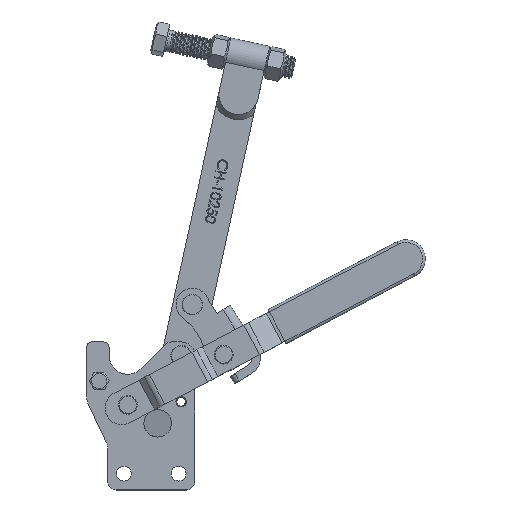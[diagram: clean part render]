
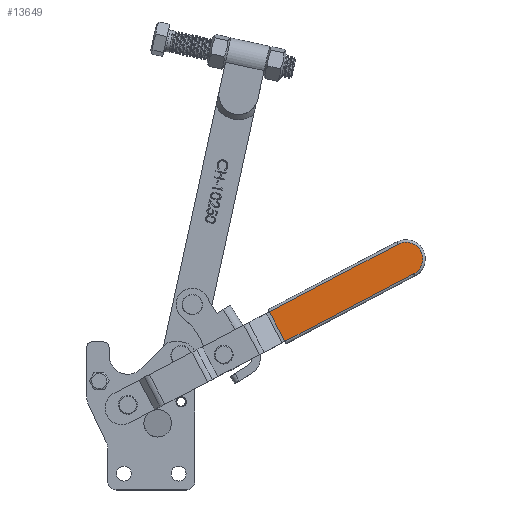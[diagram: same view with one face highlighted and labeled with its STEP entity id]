
A CAD part, top view. The second image highlights one B-rep face of the part: STEP entity #13649.
In plain terms, the highlighted planar face has unit normal (0, 0, 1).
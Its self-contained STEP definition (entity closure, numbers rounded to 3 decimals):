
#1428=PLANE('',#14865);
#2122=FACE_OUTER_BOUND('',#2929,.T.);
#2929=EDGE_LOOP('',(#12550,#12551,#12552,#12553));
#3930=LINE('',#58236,#4930);
#3943=LINE('',#58264,#4943);
#3944=LINE('',#58265,#4944);
#4930=VECTOR('',#17624,1000.);
#4943=VECTOR('',#17651,1000.);
#4944=VECTOR('',#17652,1000.);
#5304=CIRCLE('',#14855,9.75);
#6645=VERTEX_POINT('',#58224);
#6646=VERTEX_POINT('',#58226);
#6649=VERTEX_POINT('',#58233);
#6650=VERTEX_POINT('',#58235);
#8620=EDGE_CURVE('',#6646,#6645,#5304,.T.);
#8624=EDGE_CURVE('',#6650,#6649,#3930,.T.);
#8640=EDGE_CURVE('',#6649,#6646,#3943,.T.);
#8641=EDGE_CURVE('',#6645,#6650,#3944,.T.);
#12550=ORIENTED_EDGE('',*,*,#8624,.T.);
#12551=ORIENTED_EDGE('',*,*,#8640,.T.);
#12552=ORIENTED_EDGE('',*,*,#8620,.T.);
#12553=ORIENTED_EDGE('',*,*,#8641,.T.);
#13649=ADVANCED_FACE('',(#2122),#1428,.T.);
#14855=AXIS2_PLACEMENT_3D('',#58227,#17615,#17616);
#14865=AXIS2_PLACEMENT_3D('',#58263,#17649,#17650);
#17615=DIRECTION('center_axis',(0.,0.,1.));
#17616=DIRECTION('ref_axis',(1.,0.,0.));
#17624=DIRECTION('',(0.,-1.,0.));
#17649=DIRECTION('center_axis',(0.,0.,1.));
#17650=DIRECTION('ref_axis',(1.,0.,0.));
#17651=DIRECTION('',(1.,0.,0.));
#17652=DIRECTION('',(-1.,0.,0.));
#58224=CARTESIAN_POINT('',(0.,9.75,13.));
#58226=CARTESIAN_POINT('',(0.,-9.75,13.));
#58227=CARTESIAN_POINT('Origin',(0.,0.,13.));
#58233=CARTESIAN_POINT('',(-84.75,-9.75,13.));
#58235=CARTESIAN_POINT('',(-84.75,9.75,13.));
#58236=CARTESIAN_POINT('',(-84.75,-11.25,13.));
#58263=CARTESIAN_POINT('Origin',(0.,0.,13.));
#58264=CARTESIAN_POINT('',(0.,-9.75,13.));
#58265=CARTESIAN_POINT('',(-84.75,9.75,13.));
